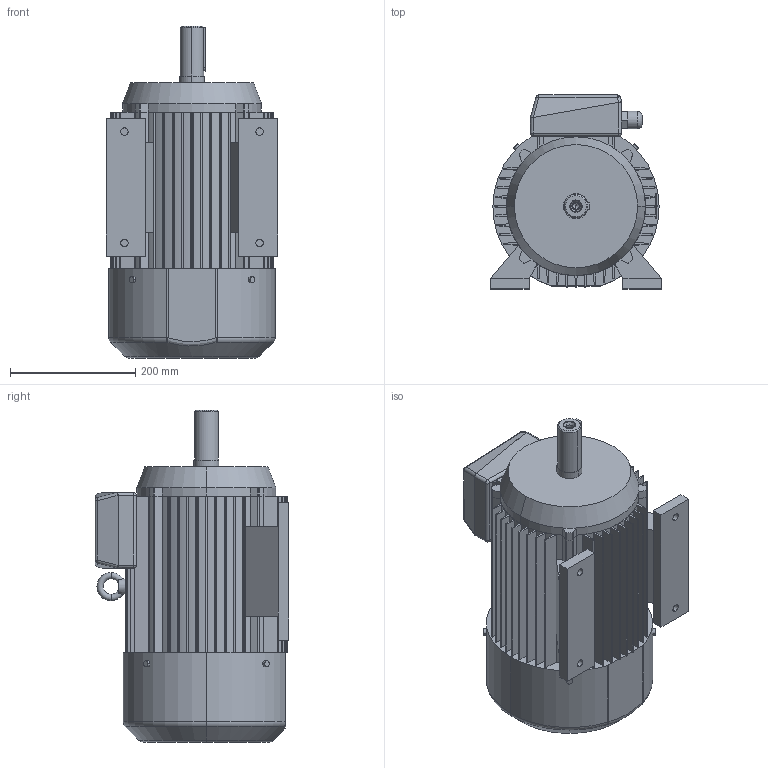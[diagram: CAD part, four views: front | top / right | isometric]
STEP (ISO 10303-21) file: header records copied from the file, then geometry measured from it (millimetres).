
FILE_DESCRIPTION (( 'STEP AP203' ), '1' );
FILE_NAME ('2SIE132M2A,4A.STEP', '2016-10-25T08:05:02', ( '' ), ( '' ), 'SwSTEP 2.0', 'SolidWorks 2003064', '' );
FILE_SCHEMA (( 'CONFIG_CONTROL_DESIGN' ));
Length unit declared in the file: millimetre
Products named in the file (1): 2SIE132M2A,4A
Bounding box: 274 x 310 x 531 mm (x, y, z)
Volume: 22032500 mm3; surface area: 1115605.3 mm2
Topology: 14 solids, 14 shells, 405 faces, 1068 edges, 675 vertices
Faces by surface type: plane 185, cylinder 182, cone 14, torus 13, sphere 10, bspline 1
Entity records: 13282 total; most frequent: CARTESIAN_POINT 3003, DIRECTION 2226, ORIENTED_EDGE 2112, EDGE_CURVE 1056, AXIS2_PLACEMENT_3D 802, VERTEX_POINT 675, LINE 622, VECTOR 622
